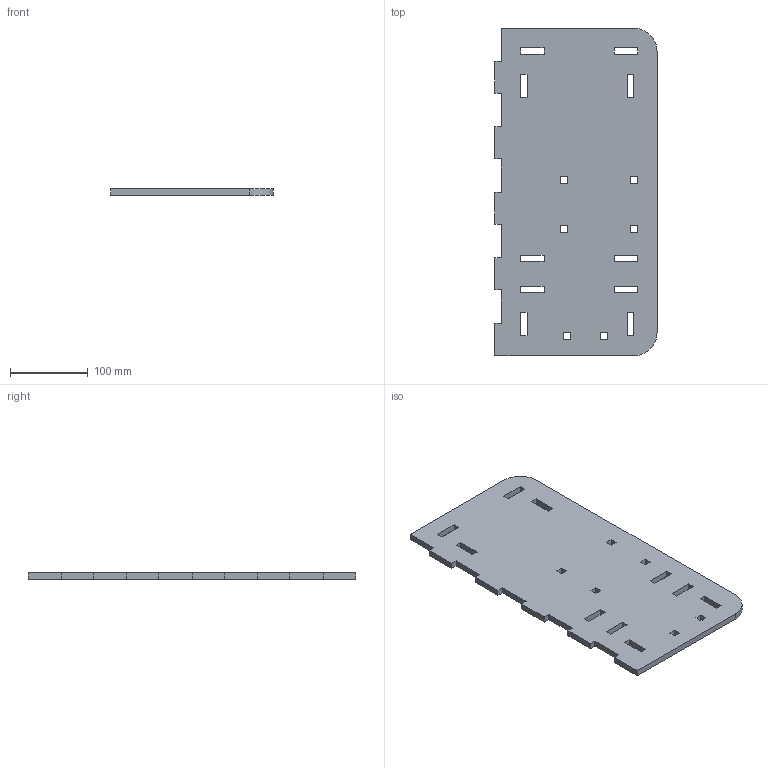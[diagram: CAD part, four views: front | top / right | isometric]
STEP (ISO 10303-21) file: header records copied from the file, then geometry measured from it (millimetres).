
FILE_DESCRIPTION(/* description */ (''),/* implementation_level */ '2;1');
FILE_NAME(/* name */ 'Part_1b_ver1.step',/* time_stamp */ '2026-07-24T14:36:43+02:00',/* author */ ('dariu'),/* organization */ (''),/* preprocessor_version */ 'ST-DEVELOPER v20.1',/* originating_system */ 'Autodesk Inventor 2026',/* authorisation */ '');
FILE_SCHEMA (('AUTOMOTIVE_DESIGN { 1 0 10303 214 3 1 1 }'));
Length unit declared in the file: millimetre
Products named in the file (1): Part_1b_ver1
Bounding box: 208 x 420 x 8 mm (x, y, z)
Volume: 658493.7 mm3; surface area: 182817.4 mm2
Topology: 1 solids, 1 shells, 90 faces, 264 edges, 176 vertices
Faces by surface type: plane 88, cylinder 2
Entity records: 3039 total; most frequent: CARTESIAN_POINT 531, ORIENTED_EDGE 528, DIRECTION 450, EDGE_CURVE 264, LINE 260, VECTOR 260, VERTEX_POINT 176, EDGE_LOOP 122
